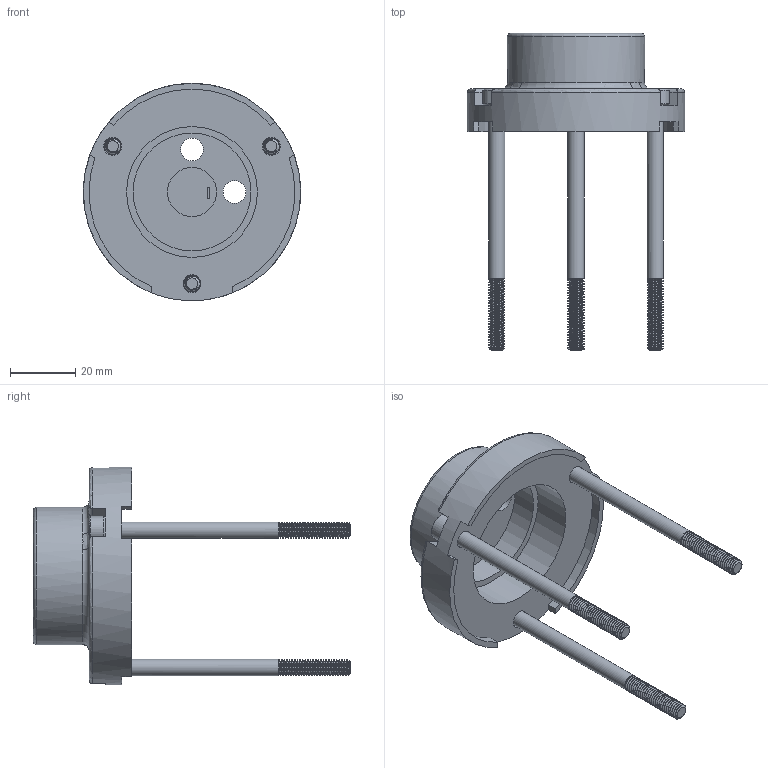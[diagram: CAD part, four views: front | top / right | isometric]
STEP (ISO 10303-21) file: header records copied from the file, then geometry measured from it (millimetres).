
FILE_DESCRIPTION (( 'STEP AP214' ), '1' );
FILE_NAME ('8800758_p.STEP', '2019-11-05T20:11:55', ( '' ), ( '' ), 'SwSTEP 2.0', 'SolidWorks 2018', '' );
FILE_SCHEMA (( 'AUTOMOTIVE_DESIGN' ));
Length unit declared in the file: millimetre
Products named in the file (1): 8800758_p
Bounding box: 66.5 x 97 x 66.5 mm (x, y, z)
Surface area: 19823.3 mm2 (no closed solid volume)
Topology: 0 solids, 7 shells, 230 faces, 590 edges, 373 vertices
Faces by surface type: cylinder 111, plane 60, cone 32, bspline 17, torus 10
Full cylindrical faces by diameter (mm): 5 x81, 5.5 x3, 7 x2, 8.5 x3, 36 x1, 40 x1, 42 x1, 66.5 x1
Entity records: 24406 total; most frequent: CARTESIAN_POINT 19663, DIRECTION 619, ORIENTED_EDGE 599, EDGE_CURVE 310, AXIS2_PLACEMENT_3D 254, VERTEX_POINT 201, EDGE_LOOP 195, FACE_OUTER_BOUND 165
